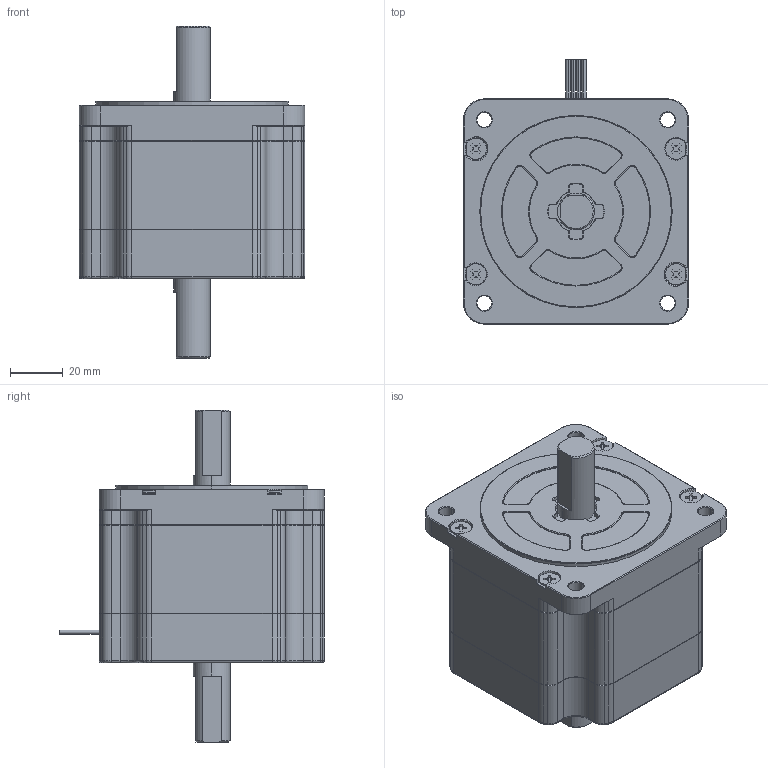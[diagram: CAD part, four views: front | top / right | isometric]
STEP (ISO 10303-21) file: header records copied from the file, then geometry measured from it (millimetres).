
FILE_DESCRIPTION (( 'STEP AP203' ), '1' );
FILE_NAME ('SH2861-5211.STEP', '2012-06-27T11:41:04', ( 'sanyodenki-admin' ), ( '' ), 'SwSTEP 2.0', 'SolidWorks 2011', '' );
FILE_SCHEMA (( 'CONFIG_CONTROL_DESIGN' ));
Length unit declared in the file: millimetre
Products named in the file (1): SH2861-5211
Bounding box: 85.5 x 100.5 x 126 mm (x, y, z)
Volume: 444091.3 mm3; surface area: 39339.3 mm2
Topology: 1 solids, 1 shells, 674 faces, 1679 edges, 1026 vertices
Faces by surface type: cylinder 244, plane 227, cone 143, torus 60
Entity records: 20096 total; most frequent: DIRECTION 3749, CARTESIAN_POINT 3452, ORIENTED_EDGE 3358, EDGE_CURVE 1679, AXIS2_PLACEMENT_3D 1419, VERTEX_POINT 1026, VECTOR 911, LINE 911
